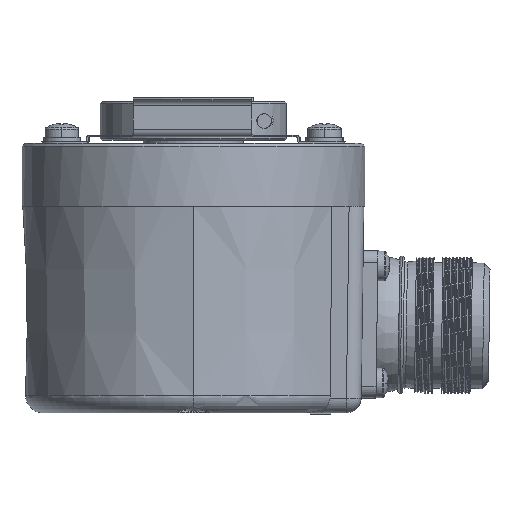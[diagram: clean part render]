
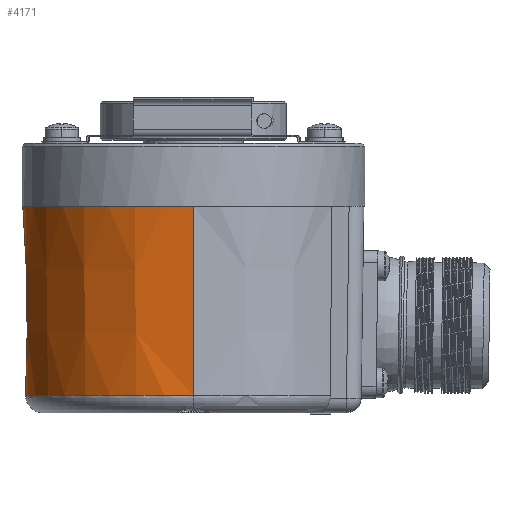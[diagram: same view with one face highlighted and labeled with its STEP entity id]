
A CAD part, left-side view. The second image highlights one B-rep face of the part: STEP entity #4171.
In plain terms, the highlighted conical face has half-angle 0.8 degrees and reference radius 29 mm.
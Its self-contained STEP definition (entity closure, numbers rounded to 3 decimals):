
#1748 = ORIENTED_EDGE ( 'NONE', *, *, #23383, .F. ) ;
#2211 = VECTOR ( 'NONE', #8317, 1000. ) ;
#3106 = ORIENTED_EDGE ( 'NONE', *, *, #9730, .T. ) ;
#3597 = CARTESIAN_POINT ( 'NONE',  ( 0., 0., 35. ) ) ;
#4171 = ADVANCED_FACE ( 'NONE', ( #19754 ), #16498, .T. ) ;
#5026 = DIRECTION ( 'NONE',  ( -1., 0., 0. ) ) ;
#6007 = CARTESIAN_POINT ( 'NONE',  ( -28.86, 0., 35. ) ) ;
#7729 = DIRECTION ( 'NONE',  ( 0., 0., 1. ) ) ;
#8317 = DIRECTION ( 'NONE',  ( 0.014, 0., 1. ) ) ;
#8361 = CARTESIAN_POINT ( 'NONE',  ( 28.86, 0., 35. ) ) ;
#9015 = DIRECTION ( 'NONE',  ( 1., 0., 0. ) ) ;
#9730 = EDGE_CURVE ( 'NONE', #22293, #18645, #25148, .T. ) ;
#9928 = ORIENTED_EDGE ( 'NONE', *, *, #13013, .T. ) ;
#10640 = CARTESIAN_POINT ( 'NONE',  ( 28.413, 0., 2.958 ) ) ;
#13013 = EDGE_CURVE ( 'NONE', #27855, #22293, #16137, .T. ) ;
#13097 = AXIS2_PLACEMENT_3D ( 'NONE', #30105, #15987, #9015 ) ;
#13102 = CARTESIAN_POINT ( 'NONE',  ( -29., 0., 45. ) ) ;
#14820 = ORIENTED_EDGE ( 'NONE', *, *, #26218, .F. ) ;
#15150 = CARTESIAN_POINT ( 'NONE',  ( 0., 0., 45. ) ) ;
#15987 = DIRECTION ( 'NONE',  ( 0., 0., 1. ) ) ;
#16137 = CIRCLE ( 'NONE', #13097, 28.413 ) ;
#16498 = CONICAL_SURFACE ( 'NONE', #30205, 29., 0.014 ) ;
#18026 = DIRECTION ( 'NONE',  ( -0.014, 0., 1. ) ) ;
#18272 = CARTESIAN_POINT ( 'NONE',  ( 29., 0., 45. ) ) ;
#18645 = VERTEX_POINT ( 'NONE', #6007 ) ;
#19670 = CARTESIAN_POINT ( 'NONE',  ( -28.413, 0., 2.958 ) ) ;
#19726 = AXIS2_PLACEMENT_3D ( 'NONE', #3597, #28740, #29230 ) ;
#19754 = FACE_OUTER_BOUND ( 'NONE', #21217, .T. ) ;
#20338 = LINE ( 'NONE', #18272, #2211 ) ;
#21217 = EDGE_LOOP ( 'NONE', ( #14820, #9928, #3106, #1748 ) ) ;
#21306 = VECTOR ( 'NONE', #18026, 1000. ) ;
#22293 = VERTEX_POINT ( 'NONE', #19670 ) ;
#23383 = EDGE_CURVE ( 'NONE', #28647, #18645, #24255, .T. ) ;
#24255 = CIRCLE ( 'NONE', #19726, 28.86 ) ;
#25148 = LINE ( 'NONE', #13102, #21306 ) ;
#26218 = EDGE_CURVE ( 'NONE', #27855, #28647, #20338, .T. ) ;
#27855 = VERTEX_POINT ( 'NONE', #10640 ) ;
#28647 = VERTEX_POINT ( 'NONE', #8361 ) ;
#28740 = DIRECTION ( 'NONE',  ( 0., 0., 1. ) ) ;
#29230 = DIRECTION ( 'NONE',  ( -1., 0., 0. ) ) ;
#30105 = CARTESIAN_POINT ( 'NONE',  ( 0., 0., 2.958 ) ) ;
#30205 = AXIS2_PLACEMENT_3D ( 'NONE', #15150, #7729, #5026 ) ;
